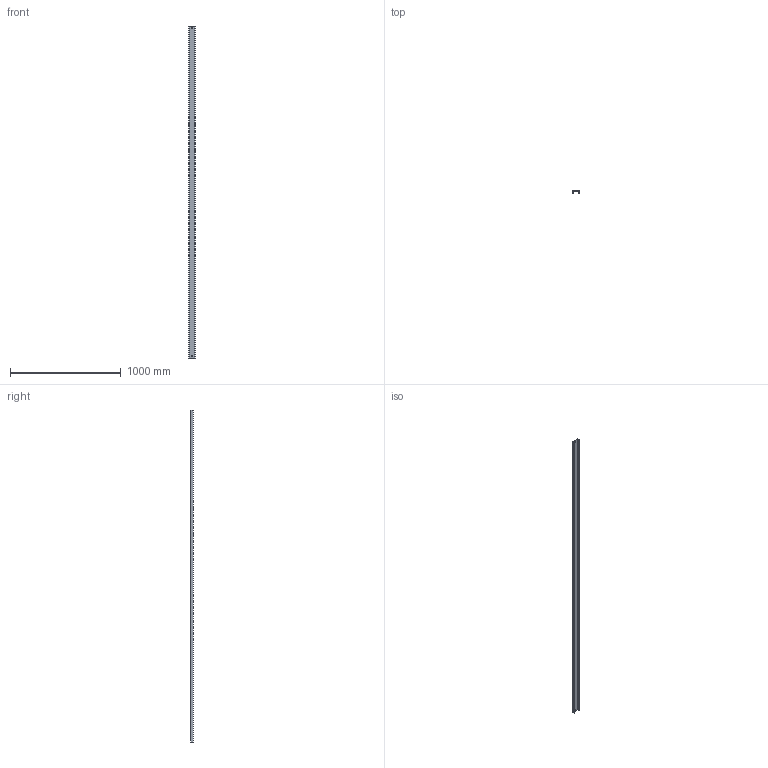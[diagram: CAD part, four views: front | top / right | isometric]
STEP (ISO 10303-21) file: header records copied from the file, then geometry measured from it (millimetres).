
FILE_DESCRIPTION (( 'STEP AP214' ), '1' );
FILE_NAME ('05N3R050.step', '2025-02-21T09:59:03', ( '' ), ( '' ), 'SwSTEP 2.0', 'SolidWorks 2023', '' );
FILE_SCHEMA (( 'AUTOMOTIVE_DESIGN' ));
Length unit declared in the file: millimetre
Products named in the file (1): 05N3R050
Bounding box: 57 x 20 x 3000 mm (x, y, z)
Volume: 422824.5 mm3; surface area: 573141 mm2
Topology: 1 solids, 1 shells, 18 faces, 48 edges, 32 vertices
Faces by surface type: plane 18
Entity records: 583 total; most frequent: CARTESIAN_POINT 99, ORIENTED_EDGE 96, DIRECTION 86, VECTOR 48, LINE 48, EDGE_CURVE 48, VERTEX_POINT 32, EDGE_LOOP 22
